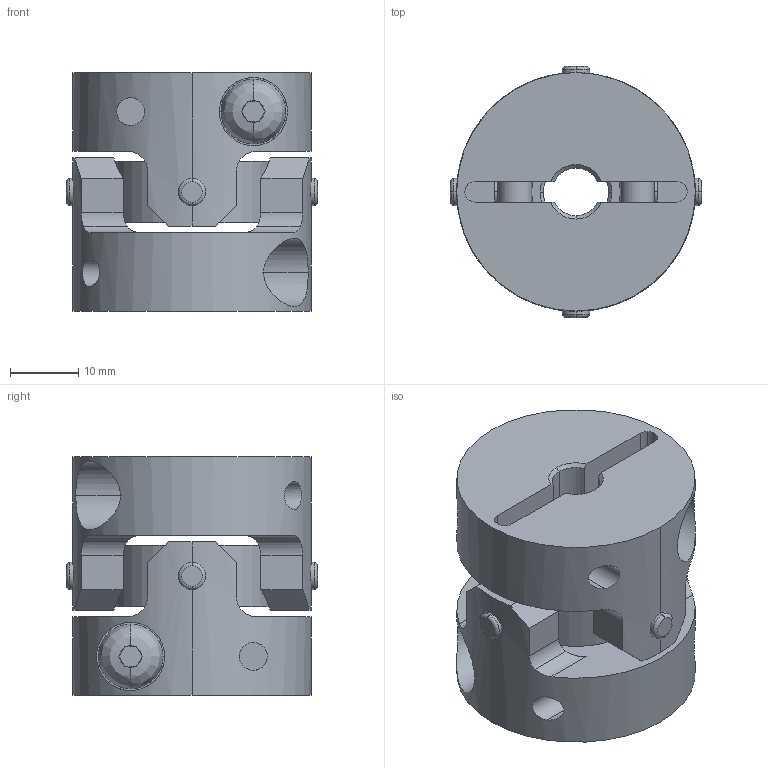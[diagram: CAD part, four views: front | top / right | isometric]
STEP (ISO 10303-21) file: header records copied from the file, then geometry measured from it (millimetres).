
FILE_DESCRIPTION((''),'2;1');
FILE_NAME('UA-35C-7×9.525.stp','2013-11-12T15:46:49',(''),(''),'AutoCAD STEP 2000i','AutoCAD 2000i',', , ');
FILE_SCHEMA(('CONFIG_CONTROL_DESIGN'));
Length unit declared in the file: millimetre
Products named in the file (6): UA-35C-8×8; 忣兜1; UA-3502-D08-1; BTN-M5; UA-3502-D08; UA35-SEN
Assembly tree (6 placements, depth 3):
  UA-35C-8×8
    忣兜1
    UA-3502-D08-1
      BTN-M5
    UA-3502-D08
      BTN-M5
    UA35-SEN
Bounding box: 36.83 x 36.83 x 35 mm (x, y, z)
Volume: 23265.7 mm3; surface area: 12040.3 mm2
Topology: 1 solids, 1 shells, 250 faces, 646 edges, 408 vertices
Faces by surface type: plane 122, cylinder 96, cone 16, bspline 8, torus 8
Entity records: 9647 total; most frequent: CARTESIAN_POINT 3391, ORIENTED_EDGE 1292, DIRECTION 1288, EDGE_CURVE 646, AXIS2_PLACEMENT_3D 497, VERTEX_POINT 408, VECTOR 294, LINE 294
